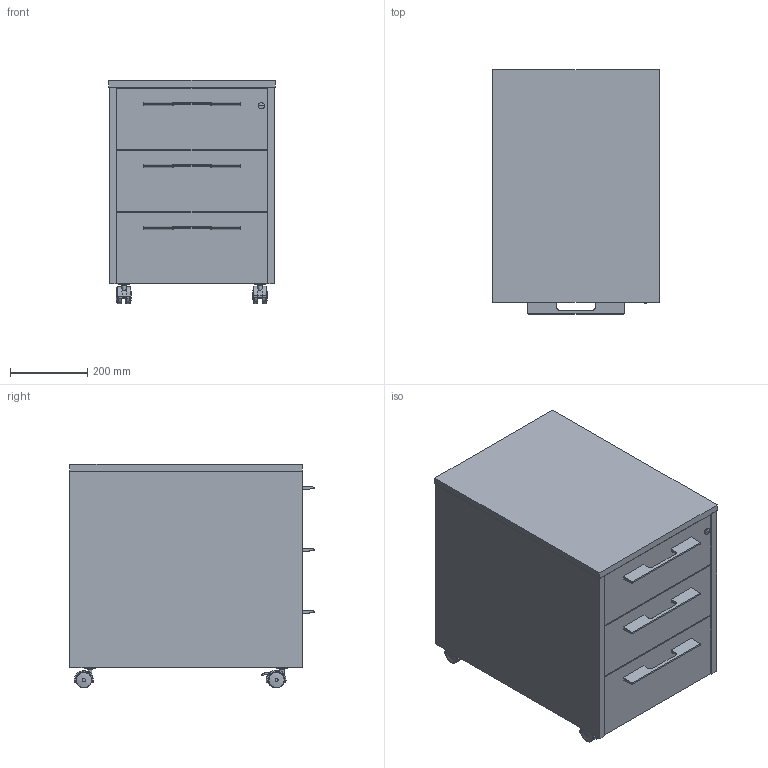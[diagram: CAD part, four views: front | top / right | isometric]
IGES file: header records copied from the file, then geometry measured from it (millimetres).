
Start section: SolidWorks IGES file using analytic representation for surfaces
Global section: file name: C:\Documents and Settings\mbiesiadecki\Moje dokumenty\MEBLE\SYSTEMY BIUROWE\6 VANCOUVER\VANCOUVER - Piktogramy\Vri-pikt-NT\Vr-KT01-t01.IGS; native system: SolidWorks 2011; preprocessor: SolidWorks 2011; author: mbiesiadecki; date: 110926.061425; units: millimetre
Bounding box: 430 x 630.1 x 576.98 mm (x, y, z)
Volume: 26788321.5 mm3; surface area: 3149241.5 mm2
Topology: 3 solids, 3 shells, 370 faces, 934 edges, 615 vertices
Faces by surface type: revolution 179, plane 157, bspline 34
